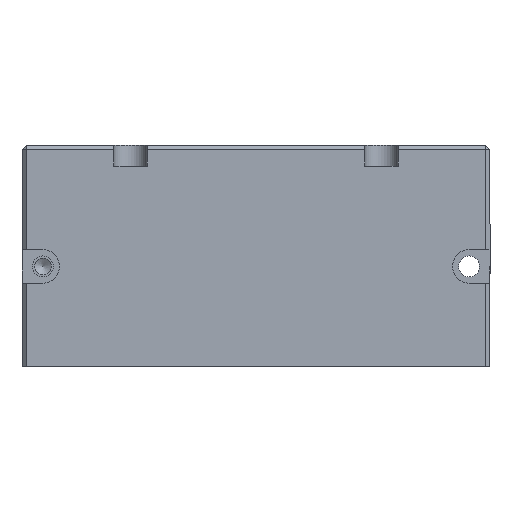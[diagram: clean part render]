
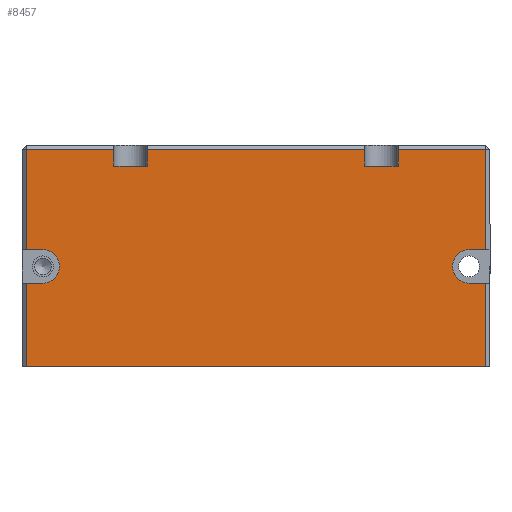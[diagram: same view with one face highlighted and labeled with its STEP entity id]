
A CAD part, left-side view. The second image highlights one B-rep face of the part: STEP entity #8457.
In plain terms, the highlighted planar face has unit normal (-1, 0, 0).
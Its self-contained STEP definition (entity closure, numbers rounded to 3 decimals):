
#983=CARTESIAN_POINT('',(-15.,27.5,-21.5));
#984=VERTEX_POINT('',#983);
#1031=CARTESIAN_POINT('',(-15.,-27.5,-21.5));
#1032=VERTEX_POINT('',#1031);
#1039=CARTESIAN_POINT('',(-15.,-27.5,-21.5));
#1040=DIRECTION('',(0.0,1.0,0.0));
#1041=VECTOR('',#1040,55.0);
#1042=LINE('',#1039,#1041);
#1043=EDGE_CURVE('',#1032,#984,#1042,.T.);
#4873=CARTESIAN_POINT('',(-15.,-27.5,-7.5));
#4874=VERTEX_POINT('',#4873);
#4883=CARTESIAN_POINT('',(-15.,-25.5,-7.5));
#4884=VERTEX_POINT('',#4883);
#4885=CARTESIAN_POINT('',(-15.,-25.5,-7.5));
#4886=DIRECTION('',(0.0,-1.0,0.0));
#4887=VECTOR('',#4886,2.);
#4888=LINE('',#4885,#4887);
#4889=EDGE_CURVE('',#4884,#4874,#4888,.T.);
#4929=CARTESIAN_POINT('',(-15.,-27.5,-11.5));
#4930=VERTEX_POINT('',#4929);
#4937=CARTESIAN_POINT('',(-15.,-27.5,-11.5));
#4938=DIRECTION('',(0.0,0.0,-1.0));
#4939=VECTOR('',#4938,10.);
#4940=LINE('',#4937,#4939);
#4941=EDGE_CURVE('',#4930,#1032,#4940,.T.);
#4969=CARTESIAN_POINT('',(-15.,-25.5,-11.5));
#4970=VERTEX_POINT('',#4969);
#4977=CARTESIAN_POINT('',(-15.,-27.5,-11.5));
#4978=DIRECTION('',(0.0,1.0,0.0));
#4979=VECTOR('',#4978,2.);
#4980=LINE('',#4977,#4979);
#4981=EDGE_CURVE('',#4930,#4970,#4980,.T.);
#4991=CARTESIAN_POINT('',(-15.,27.5,-11.5));
#4992=VERTEX_POINT('',#4991);
#4993=CARTESIAN_POINT('',(-15.,27.5,-21.5));
#4994=DIRECTION('',(0.0,0.0,1.0));
#4995=VECTOR('',#4994,10.);
#4996=LINE('',#4993,#4995);
#4997=EDGE_CURVE('',#984,#4992,#4996,.T.);
#5031=CARTESIAN_POINT('',(-15.,-25.5,-9.5));
#5032=DIRECTION('',(1.0,0.0,0.0));
#5033=DIRECTION('',(0.0,0.0,1.0));
#5034=AXIS2_PLACEMENT_3D('',#5031,#5032,#5033);
#5035=CIRCLE('',#5034,2.0);
#5036=EDGE_CURVE('',#4970,#4884,#5035,.T.);
#5074=CARTESIAN_POINT('',(-15.,25.5,-11.5));
#5075=VERTEX_POINT('',#5074);
#5084=CARTESIAN_POINT('',(-15.,25.5,-7.5));
#5085=VERTEX_POINT('',#5084);
#5086=CARTESIAN_POINT('',(-15.,25.5,-9.5));
#5087=DIRECTION('',(1.0,0.0,0.0));
#5088=DIRECTION('',(0.0,0.0,1.0));
#5089=AXIS2_PLACEMENT_3D('',#5086,#5087,#5088);
#5090=CIRCLE('',#5089,2.0);
#5091=EDGE_CURVE('',#5085,#5075,#5090,.T.);
#5117=CARTESIAN_POINT('',(-15.,25.5,-11.5));
#5118=DIRECTION('',(0.0,1.0,0.0));
#5119=VECTOR('',#5118,2.);
#5120=LINE('',#5117,#5119);
#5121=EDGE_CURVE('',#5075,#4992,#5120,.T.);
#5148=CARTESIAN_POINT('',(-15.,27.5,-7.5));
#5149=VERTEX_POINT('',#5148);
#5171=CARTESIAN_POINT('',(-15.,27.5,-7.5));
#5172=DIRECTION('',(0.0,-1.0,0.0));
#5173=VECTOR('',#5172,2.);
#5174=LINE('',#5171,#5173);
#5175=EDGE_CURVE('',#5149,#5085,#5174,.T.);
#6939=CARTESIAN_POINT('',(-15.,27.5,4.5));
#6940=VERTEX_POINT('',#6939);
#6961=CARTESIAN_POINT('',(-15.,27.5,-7.5));
#6962=DIRECTION('',(0.0,0.0,1.0));
#6963=VECTOR('',#6962,12.);
#6964=LINE('',#6961,#6963);
#6965=EDGE_CURVE('',#5149,#6940,#6964,.T.);
#6983=CARTESIAN_POINT('',(-15.,17.0,4.5));
#6984=VERTEX_POINT('',#6983);
#6993=CARTESIAN_POINT('',(-15.,27.5,4.5));
#6994=DIRECTION('',(0.0,-1.0,0.0));
#6995=VECTOR('',#6994,10.5);
#6996=LINE('',#6993,#6995);
#6997=EDGE_CURVE('',#6940,#6984,#6996,.T.);
#7139=CARTESIAN_POINT('',(-15.,13.,4.5));
#7140=VERTEX_POINT('',#7139);
#7147=CARTESIAN_POINT('',(-15.,-13.,4.5));
#7148=VERTEX_POINT('',#7147);
#7149=CARTESIAN_POINT('',(-15.,13.,4.5));
#7150=DIRECTION('',(0.0,-1.0,0.0));
#7151=VECTOR('',#7150,26.);
#7152=LINE('',#7149,#7151);
#7153=EDGE_CURVE('',#7140,#7148,#7152,.T.);
#7180=CARTESIAN_POINT('',(-15.,13.,2.5));
#7181=VERTEX_POINT('',#7180);
#7188=CARTESIAN_POINT('',(-15.,13.,4.5));
#7189=DIRECTION('',(0.0,0.0,-1.0));
#7190=VECTOR('',#7189,2.0);
#7191=LINE('',#7188,#7190);
#7192=EDGE_CURVE('',#7140,#7181,#7191,.T.);
#7202=CARTESIAN_POINT('',(-15.,-27.5,4.5));
#7203=VERTEX_POINT('',#7202);
#7239=CARTESIAN_POINT('',(-15.,-27.5,4.5));
#7240=DIRECTION('',(0.0,0.0,-1.0));
#7241=VECTOR('',#7240,12.);
#7242=LINE('',#7239,#7241);
#7243=EDGE_CURVE('',#7203,#4874,#7242,.T.);
#7333=CARTESIAN_POINT('',(-15.,-17.0,4.5));
#7334=VERTEX_POINT('',#7333);
#7341=CARTESIAN_POINT('',(-15.,-17.0,4.5));
#7342=DIRECTION('',(0.0,-1.0,0.0));
#7343=VECTOR('',#7342,10.5);
#7344=LINE('',#7341,#7343);
#7345=EDGE_CURVE('',#7334,#7203,#7344,.T.);
#7733=CARTESIAN_POINT('',(-15.,-17.0,2.5));
#7734=VERTEX_POINT('',#7733);
#7741=CARTESIAN_POINT('',(-15.,-17.0,4.5));
#7742=DIRECTION('',(0.0,0.0,-1.0));
#7743=VECTOR('',#7742,2.);
#7744=LINE('',#7741,#7743);
#7745=EDGE_CURVE('',#7334,#7734,#7744,.T.);
#7756=CARTESIAN_POINT('',(-15.,-13.,2.5));
#7757=VERTEX_POINT('',#7756);
#7758=CARTESIAN_POINT('',(-15.,-13.,2.5));
#7759=DIRECTION('',(0.0,0.0,1.0));
#7760=VECTOR('',#7759,2.);
#7761=LINE('',#7758,#7760);
#7762=EDGE_CURVE('',#7757,#7148,#7761,.T.);
#7780=CARTESIAN_POINT('',(-15.,-17.,2.5));
#7781=DIRECTION('',(0.0,1.0,0.0));
#7782=VECTOR('',#7781,4.0);
#7783=LINE('',#7780,#7782);
#7784=EDGE_CURVE('',#7734,#7757,#7783,.T.);
#7900=CARTESIAN_POINT('',(-15.,17.,2.5));
#7901=VERTEX_POINT('',#7900);
#7902=CARTESIAN_POINT('',(-15.,17.0,2.5));
#7903=DIRECTION('',(0.0,0.0,1.0));
#7904=VECTOR('',#7903,2.0);
#7905=LINE('',#7902,#7904);
#7906=EDGE_CURVE('',#7901,#6984,#7905,.T.);
#7924=CARTESIAN_POINT('',(-15.,13.,2.5));
#7925=DIRECTION('',(0.0,1.0,0.0));
#7926=VECTOR('',#7925,4.);
#7927=LINE('',#7924,#7926);
#7928=EDGE_CURVE('',#7181,#7901,#7927,.T.);
#8430=CARTESIAN_POINT('',(-15.,-28.,0.0));
#8431=DIRECTION('',(-1.0,0.0,0.0));
#8432=DIRECTION('',(0.0,0.0,1.0));
#8433=AXIS2_PLACEMENT_3D('',#8430,#8431,#8432);
#8434=PLANE('',#8433);
#8435=ORIENTED_EDGE('',*,*,#6965,.F.);
#8436=ORIENTED_EDGE('',*,*,#5175,.T.);
#8437=ORIENTED_EDGE('',*,*,#5091,.T.);
#8438=ORIENTED_EDGE('',*,*,#5121,.T.);
#8439=ORIENTED_EDGE('',*,*,#4997,.F.);
#8440=ORIENTED_EDGE('',*,*,#1043,.F.);
#8441=ORIENTED_EDGE('',*,*,#4941,.F.);
#8442=ORIENTED_EDGE('',*,*,#4981,.T.);
#8443=ORIENTED_EDGE('',*,*,#5036,.T.);
#8444=ORIENTED_EDGE('',*,*,#4889,.T.);
#8445=ORIENTED_EDGE('',*,*,#7243,.F.);
#8446=ORIENTED_EDGE('',*,*,#7345,.F.);
#8447=ORIENTED_EDGE('',*,*,#7745,.T.);
#8448=ORIENTED_EDGE('',*,*,#7784,.T.);
#8449=ORIENTED_EDGE('',*,*,#7762,.T.);
#8450=ORIENTED_EDGE('',*,*,#7153,.F.);
#8451=ORIENTED_EDGE('',*,*,#7192,.T.);
#8452=ORIENTED_EDGE('',*,*,#7928,.T.);
#8453=ORIENTED_EDGE('',*,*,#7906,.T.);
#8454=ORIENTED_EDGE('',*,*,#6997,.F.);
#8455=EDGE_LOOP('',(#8435,#8436,#8437,#8438,#8439,#8440,#8441,#8442,#8443,#8444,#8445,#8446,#8447,#8448,#8449,#8450,#8451,#8452,#8453,#8454));
#8456=FACE_OUTER_BOUND('',#8455,.T.);
#8457=ADVANCED_FACE('',(#8456),#8434,.T.);
